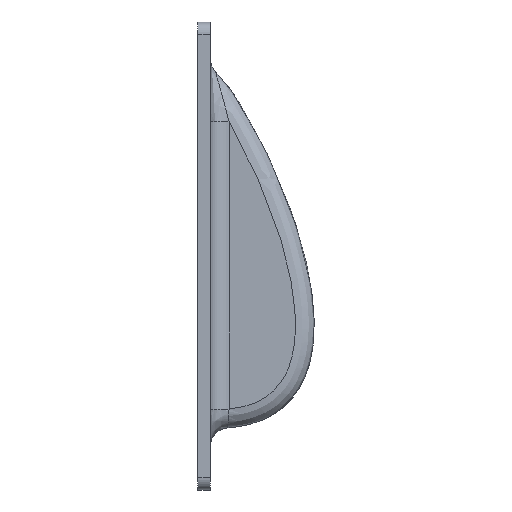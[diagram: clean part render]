
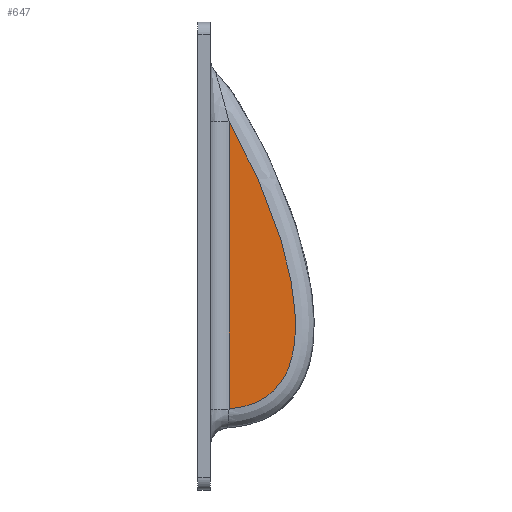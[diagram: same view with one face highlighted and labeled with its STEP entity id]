
A CAD part, left-side view. The second image highlights one B-rep face of the part: STEP entity #647.
In plain terms, the highlighted planar face has unit normal (-1, 0, 0).
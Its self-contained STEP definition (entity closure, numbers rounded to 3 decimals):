
#170 = CARTESIAN_POINT ( 'NONE',  ( -41., -4.672, -11.124 ) ) ;
#188 = CARTESIAN_POINT ( 'NONE',  ( -41., -4.259, -15.606 ) ) ;
#201 = CARTESIAN_POINT ( 'NONE',  ( -41., -3.348, -1.094 ) ) ;
#220 = CARTESIAN_POINT ( 'NONE',  ( -41., -3.791, -17.235 ) ) ;
#233 = CARTESIAN_POINT ( 'NONE',  ( -41., -0.78, -21.945 ) ) ;
#276 = CARTESIAN_POINT ( 'NONE',  ( -41., -4.09, -0.115 ) ) ;
#400 = LINE ( 'NONE', #1548, #2391 ) ;
#418 = CARTESIAN_POINT ( 'NONE',  ( -41., -4.004, -4.393 ) ) ;
#433 = CARTESIAN_POINT ( 'NONE',  ( -41., -4.652, -12.261 ) ) ;
#455 = AXIS2_PLACEMENT_3D ( 'NONE', #276, #2068, #2517 ) ;
#569 = EDGE_CURVE ( 'NONE', #968, #2145, #1557, .T. ) ;
#620 = CARTESIAN_POINT ( 'NONE',  ( -41., 4.871, -24.395 ) ) ;
#647 = ADVANCED_FACE ( 'NONE', ( #737 ), #2396, .F. ) ;
#669 = CARTESIAN_POINT ( 'NONE',  ( -41., -4.591, -8.869 ) ) ;
#696 = CARTESIAN_POINT ( 'NONE',  ( -41., -2.896, -19.313 ) ) ;
#737 = FACE_OUTER_BOUND ( 'NONE', #2553, .T. ) ;
#863 = CARTESIAN_POINT ( 'NONE',  ( -41., 2.131, -23.668 ) ) ;
#896 = CARTESIAN_POINT ( 'NONE',  ( -41., 3.8, 17.582 ) ) ;
#930 = CARTESIAN_POINT ( 'NONE',  ( -41., -1.193, -21.566 ) ) ;
#968 = VERTEX_POINT ( 'NONE', #2387 ) ;
#1110 = CARTESIAN_POINT ( 'NONE',  ( -41., 4.852, 19.571 ) ) ;
#1132 = CARTESIAN_POINT ( 'NONE',  ( -41., 6., 21.502 ) ) ;
#1162 = CARTESIAN_POINT ( 'NONE',  ( -41., -4.445, -14.5 ) ) ;
#1310 = CARTESIAN_POINT ( 'NONE',  ( -41., 5.433, -24.475 ) ) ;
#1375 = CARTESIAN_POINT ( 'NONE',  ( -41., -0.704, 7.391 ) ) ;
#1389 = CARTESIAN_POINT ( 'NONE',  ( -41., 0.116, -22.628 ) ) ;
#1548 = CARTESIAN_POINT ( 'NONE',  ( -41., 6., -0.115 ) ) ;
#1557 = B_SPLINE_CURVE_WITH_KNOTS ( 'NONE', 3,
 ( #2729, #1310, #620, #1561, #2510, #863, #2356, #2337, #1389, #233, #930, #1823, #1610, #696, #1575, #2993, #220, #188, #1162, #433, #170, #669, #2796, #1640, #2321, #418, #2088, #201, #1858, #2042, #1375, #2106, #3056, #896, #1110, #3008 ),
 .UNSPECIFIED., .F., .F.,
 ( 4, 2, 2, 2, 2, 2, 2, 2, 2, 2, 2, 2, 2, 2, 2, 2, 2, 4 ),
 ( 0., 0.002, 0.003, 0.005, 0.007, 0.009, 0.01, 0.012, 0.014, 0.017, 0.02, 0.024, 0.026, 0.027, 0.034, 0.041, 0.048, 0.054 ),
 .UNSPECIFIED. ) ;
#1561 = CARTESIAN_POINT ( 'NONE',  ( -41., 3.759, -24.172 ) ) ;
#1575 = CARTESIAN_POINT ( 'NONE',  ( -41., -3.155, -18.812 ) ) ;
#1610 = CARTESIAN_POINT ( 'NONE',  ( -41., -2.295, -20.271 ) ) ;
#1640 = CARTESIAN_POINT ( 'NONE',  ( -41., -4.274, -6.064 ) ) ;
#1823 = CARTESIAN_POINT ( 'NONE',  ( -41., -1.95, -20.731 ) ) ;
#1858 = CARTESIAN_POINT ( 'NONE',  ( -41., -2.776, 1.058 ) ) ;
#2014 = DIRECTION ( 'NONE',  ( 0., 0., -1. ) ) ;
#2042 = CARTESIAN_POINT ( 'NONE',  ( -41., -1.455, 5.301 ) ) ;
#2052 = ORIENTED_EDGE ( 'NONE', *, *, #569, .T. ) ;
#2068 = DIRECTION ( 'NONE',  ( 1., 0., 0. ) ) ;
#2088 = CARTESIAN_POINT ( 'NONE',  ( -41., -3.902, -3.841 ) ) ;
#2106 = CARTESIAN_POINT ( 'NONE',  ( -41., 0.947, 11.52 ) ) ;
#2145 = VERTEX_POINT ( 'NONE', #1132 ) ;
#2321 = CARTESIAN_POINT ( 'NONE',  ( -41., -4.19, -5.504 ) ) ;
#2337 = CARTESIAN_POINT ( 'NONE',  ( -41., 0.603, -22.933 ) ) ;
#2356 = CARTESIAN_POINT ( 'NONE',  ( -41., 1.61, -23.451 ) ) ;
#2387 = CARTESIAN_POINT ( 'NONE',  ( -41., 6., -24.529 ) ) ;
#2391 = VECTOR ( 'NONE', #2014, 1000. ) ;
#2396 = PLANE ( 'NONE',  #455 ) ;
#2510 = CARTESIAN_POINT ( 'NONE',  ( -41., 3.206, -24.028 ) ) ;
#2517 = DIRECTION ( 'NONE',  ( 0., 0., -1. ) ) ;
#2553 = EDGE_LOOP ( 'NONE', ( #2052, #2708 ) ) ;
#2708 = ORIENTED_EDGE ( 'NONE', *, *, #2791, .T. ) ;
#2729 = CARTESIAN_POINT ( 'NONE',  ( -41., 6., -24.529 ) ) ;
#2791 = EDGE_CURVE ( 'NONE', #2145, #968, #400, .T. ) ;
#2796 = CARTESIAN_POINT ( 'NONE',  ( -41., -4.49, -7.745 ) ) ;
#2993 = CARTESIAN_POINT ( 'NONE',  ( -41., -3.602, -17.775 ) ) ;
#3008 = CARTESIAN_POINT ( 'NONE',  ( -41., 6., 21.502 ) ) ;
#3056 = CARTESIAN_POINT ( 'NONE',  ( -41., 1.847, 13.558 ) ) ;
